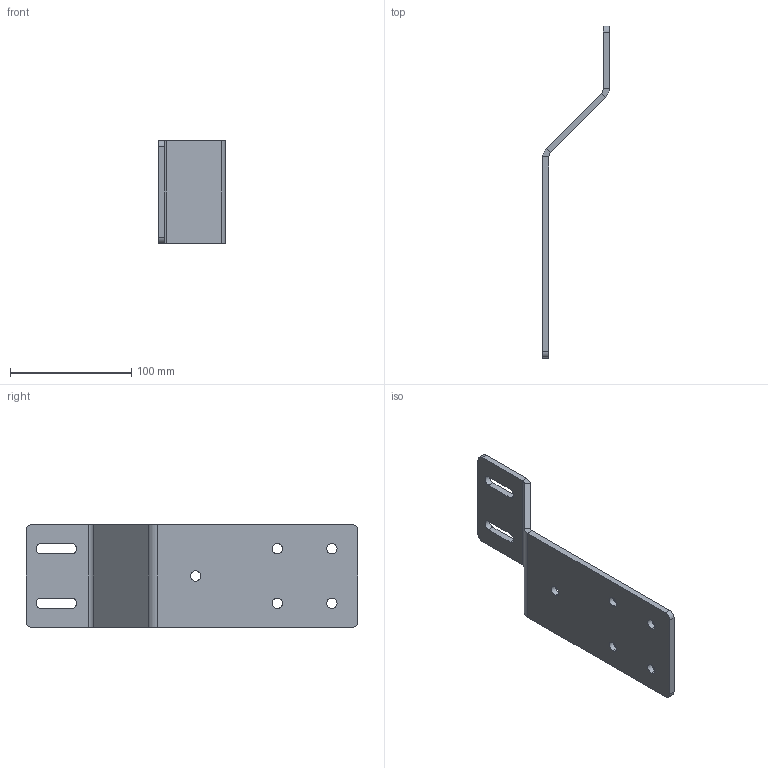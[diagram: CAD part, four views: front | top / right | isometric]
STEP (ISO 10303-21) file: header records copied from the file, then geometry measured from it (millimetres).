
FILE_DESCRIPTION (( 'STEP AP203' ), '1' );
FILE_NAME ('606.030.405.STEP', '2018-03-12T08:16:48', ( '' ), ( '' ), 'SwSTEP 2.0', 'SolidWorks 2016', '' );
FILE_SCHEMA (( 'CONFIG_CONTROL_DESIGN' ));
Length unit declared in the file: millimetre
Products named in the file (1): 606.030.405
Bounding box: 55 x 274 x 85 mm (x, y, z)
Volume: 120759.4 mm3; surface area: 53486.1 mm2
Topology: 1 solids, 1 shells, 44 faces, 110 edges, 68 vertices
Faces by surface type: cylinder 22, plane 22
Entity records: 1415 total; most frequent: DIRECTION 244, CARTESIAN_POINT 223, ORIENTED_EDGE 220, EDGE_CURVE 110, AXIS2_PLACEMENT_3D 89, VERTEX_POINT 68, LINE 66, VECTOR 66
